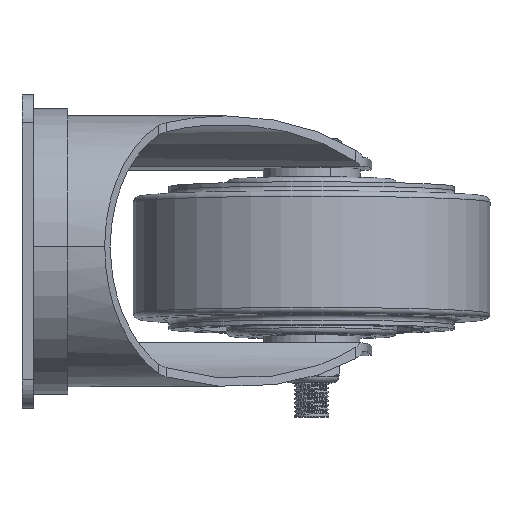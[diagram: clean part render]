
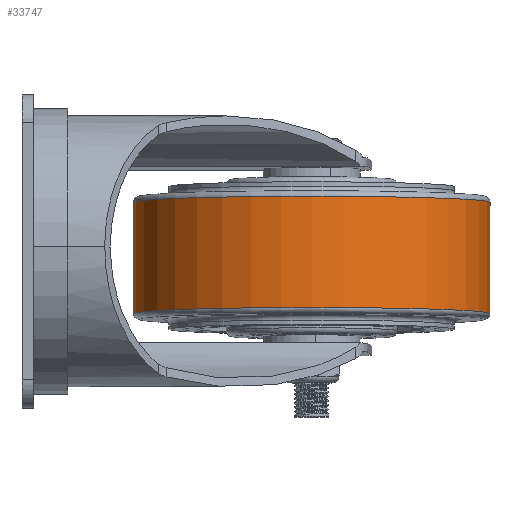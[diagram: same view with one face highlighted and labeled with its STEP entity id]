
A CAD part, left-side view. The second image highlights one B-rep face of the part: STEP entity #33747.
In plain terms, the highlighted cylindrical face has radius 62.5 mm (diameter 125 mm), a partial arc.
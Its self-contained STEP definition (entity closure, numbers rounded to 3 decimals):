
#105 = DIRECTION ( 'NONE',  ( 0., -1., 0. ) ) ;
#149 = CARTESIAN_POINT ( 'NONE',  ( 0., 19.5, -62.5 ) ) ;
#1604 = ORIENTED_EDGE ( 'NONE', *, *, #25365, .T. ) ;
#1652 = VERTEX_POINT ( 'NONE', #12709 ) ;
#1844 = DIRECTION ( 'NONE',  ( 0., -1., 0. ) ) ;
#2332 = CIRCLE ( 'NONE', #6637, 62.5 ) ;
#2889 = EDGE_LOOP ( 'NONE', ( #5864, #17830, #1604, #22840 ) ) ;
#2982 = CIRCLE ( 'NONE', #24247, 62.5 ) ;
#3593 = VECTOR ( 'NONE', #105, 1000. ) ;
#4686 = EDGE_CURVE ( 'NONE', #1652, #35553, #7425, .T. ) ;
#4701 = CARTESIAN_POINT ( 'NONE',  ( 0., 0., 0. ) ) ;
#5864 = ORIENTED_EDGE ( 'NONE', *, *, #4686, .F. ) ;
#5980 = DIRECTION ( 'NONE',  ( 0., 0., -1. ) ) ;
#6637 = AXIS2_PLACEMENT_3D ( 'NONE', #32189, #32364, #5980 ) ;
#7218 = DIRECTION ( 'NONE',  ( 0., 0., -1. ) ) ;
#7425 = LINE ( 'NONE', #32669, #20820 ) ;
#12709 = CARTESIAN_POINT ( 'NONE',  ( 0., 19.5, 62.5 ) ) ;
#13086 = FACE_OUTER_BOUND ( 'NONE', #2889, .T. ) ;
#14158 = CARTESIAN_POINT ( 'NONE',  ( 0., -19.5, -62.5 ) ) ;
#14659 = EDGE_CURVE ( 'NONE', #16651, #35553, #2332, .T. ) ;
#15491 = EDGE_CURVE ( 'NONE', #1652, #25029, #2982, .T. ) ;
#16651 = VERTEX_POINT ( 'NONE', #14158 ) ;
#17830 = ORIENTED_EDGE ( 'NONE', *, *, #15491, .T. ) ;
#20820 = VECTOR ( 'NONE', #21293, 1000. ) ;
#21293 = DIRECTION ( 'NONE',  ( 0., -1., 0. ) ) ;
#22215 = DIRECTION ( 'NONE',  ( 0., -1., 0. ) ) ;
#22840 = ORIENTED_EDGE ( 'NONE', *, *, #14659, .T. ) ;
#23414 = CARTESIAN_POINT ( 'NONE',  ( 0., -19.5, 62.5 ) ) ;
#23664 = LINE ( 'NONE', #26130, #3593 ) ;
#24247 = AXIS2_PLACEMENT_3D ( 'NONE', #25072, #22215, #33813 ) ;
#25029 = VERTEX_POINT ( 'NONE', #149 ) ;
#25072 = CARTESIAN_POINT ( 'NONE',  ( 0., 19.5, 0. ) ) ;
#25365 = EDGE_CURVE ( 'NONE', #25029, #16651, #23664, .T. ) ;
#26130 = CARTESIAN_POINT ( 'NONE',  ( 0., 0., -62.5 ) ) ;
#28309 = AXIS2_PLACEMENT_3D ( 'NONE', #4701, #1844, #7218 ) ;
#32189 = CARTESIAN_POINT ( 'NONE',  ( 0., -19.5, 0. ) ) ;
#32364 = DIRECTION ( 'NONE',  ( 0., 1., 0. ) ) ;
#32669 = CARTESIAN_POINT ( 'NONE',  ( 0., 0., 62.5 ) ) ;
#33747 = ADVANCED_FACE ( 'NONE', ( #13086 ), #36091, .T. ) ;
#33813 = DIRECTION ( 'NONE',  ( 0., 0., 1. ) ) ;
#35553 = VERTEX_POINT ( 'NONE', #23414 ) ;
#36091 = CYLINDRICAL_SURFACE ( 'NONE', #28309, 62.5 ) ;
